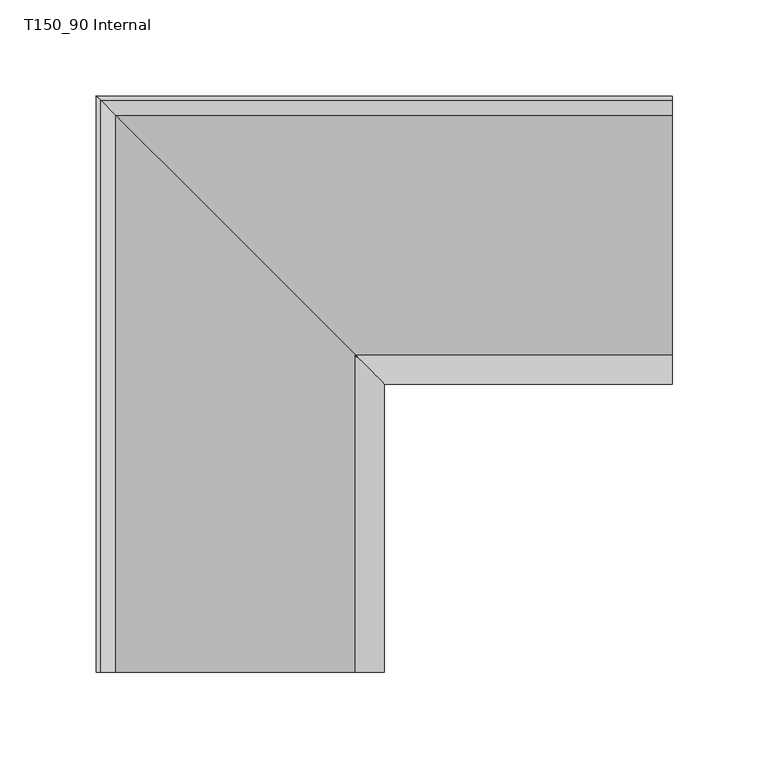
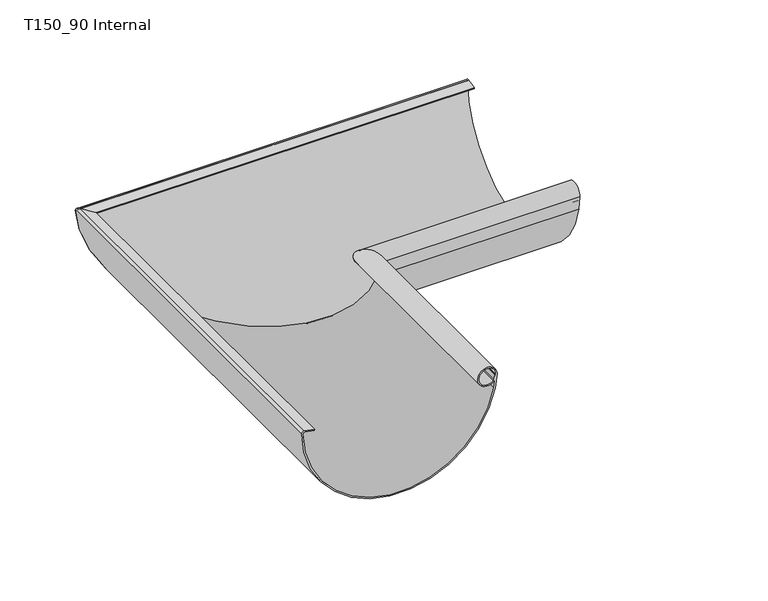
"""IFC4 building model written with IfcOpenShell, lengths in millimetres: proxy geometry, GROVIK_Gutter_Corner : T150_90 Internal."""

from ifc_helpers import new_model, si_unit, frame, origin, place, context, project, spatial, polyline, circle_curve, ellipse_curve, source, transform, mapped, element, save
from ifc_brep_helpers import plane_surface, cylinder_surface, revolved_surface, advanced_brep


def t150_90_internal_05e828aa(model_context):
    return source(origin(), model_context, "Body", "AdvancedBrep", [
        advanced_brep(
        [(2.2000746, -300.0, -0.0242687), (0.0, -300.0, -1.8), (148.4372161, -300.0, -16.2320172), (150.0, -300.0, -5.2006666), (147.5920528, -300.0, -10.6080252), (148.3363785, -300.0, -9.0063664), (148.8875189, -300.0, -5.5500325), (148.0, -300.0, -5.4006666), (147.4343725, -300.0, -8.9478528), (146.9551017, -300.0, -9.9710741), (149.0946963, -300.0, -5.3813466), (147.4579744, -300.0, -16.0293209), (1.003133, -300.0, -2.054027), (2.2975071, -300.0, -0.9559749), (9.7857475, -300.0, -2.295228), (9.9441961, -300.0, -1.4092855), (9.9441961, -9.7441961, -1.4092855), (2.2000746, -2.0000746, -0.0242687), (9.7857475, -9.5857475, -2.295228), (2.2975071, -2.0975071, -0.9559749), (1.0039531, -0.8039531, -2.0540157), (147.4579744, -147.2579744, -16.0293209), (149.0946963, -148.8946963, -5.3813466), (146.9551017, -146.7551017, -9.9710741), (147.4343725, -147.2343725, -8.9478528), (148.0, -147.8, -5.4006666), (148.8875189, -148.6875189, -5.5500325), (148.3363785, -148.1363785, -9.0063664), (147.5920528, -147.3920528, -10.6080252), (150.0, -149.8, -5.2006666), (148.4372161, -148.2372161, -16.2320172), (0.0, 0.2, -1.8)],
        [
            (0, 1, circle_curve(frame((1.8973666, -300.0, -1.9), z_axis=(0.0, -1.0, 0.0), x_axis=(1.0, 0.0, 0.0)), 1.9)),
            (1, 2, circle_curve(frame((74.995059, -300.0, -1.03), z_axis=(0.0, -1.0, 0.0), x_axis=(-1.0, 0.0, 0.0)), 74.9990118)),
            (2, 3),
            (3, 4, circle_curve(frame((142.5, -300.0, -5.1006666), z_axis=(0.0, -1.0, 0.0), x_axis=(1.0, 0.0, 0.0)), 7.5006666)),
            (4, 5, circle_curve(frame((145.1464101, -300.0, -8.4977001), z_axis=(0.0, -1.0, 0.0), x_axis=(1.0, 0.0, 0.0)), 3.2302694)),
            (5, 6),
            (6, 7),
            (7, 8),
            (8, 9, circle_curve(frame((145.4150076, -300.0, -8.6258487), z_axis=(0.0, 1.0, 0.0), x_axis=(1.0, 0.0, 0.0)), 2.0448768)),
            (9, 10, circle_curve(frame((142.5, -300.0, -5.1006666), z_axis=(0.0, 1.0, 0.0), x_axis=(1.0, 0.0, 0.0)), 6.6006666)),
            (10, 11),
            (11, 12, circle_curve(frame((74.995059, -300.0, -1.03), z_axis=(0.0, 1.0, 0.0), x_axis=(-1.0, 0.0, 0.0)), 73.9990118)),
            (12, 13, circle_curve(frame((2.1038477, -300.0, -2.0387934), z_axis=(0.0, 1.0, 0.0), x_axis=(1.0, 0.0, 0.0)), 1.1)),
            (13, 14),
            (14, 15),
            (15, 0),
            (15, 16),
            (16, 17),
            (17, 0),
            (14, 18),
            (18, 16),
            (13, 19),
            (19, 18),
            (12, 20),
            (20, 19, ellipse_curve(frame((2.1038477, -1.9038477, -2.0387934), z_axis=(0.7071067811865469, 0.7071067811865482, 0.0), x_axis=(-0.7071067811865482, 0.7071067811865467, 0.0)), 1.5556349, 1.1)),
            (11, 21),
            (21, 20, ellipse_curve(frame((74.995059, -74.795059, -1.03), z_axis=(0.7071067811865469, 0.7071067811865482, 0.0), x_axis=(-0.7071067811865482, 0.7071067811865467, 0.0)), 104.6504061, 73.9990118)),
            (10, 22),
            (22, 21),
            (9, 23),
            (23, 22, ellipse_curve(frame((142.5, -142.3, -5.1006666), z_axis=(0.7071067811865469, 0.7071067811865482, 0.0), x_axis=(-0.7071067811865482, 0.7071067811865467, 0.0)), 9.3347523, 6.6006666)),
            (8, 24),
            (24, 23, ellipse_curve(frame((145.4150076, -145.2150076, -8.6258487), z_axis=(0.7071067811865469, 0.7071067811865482, 0.0), x_axis=(-0.7071067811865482, 0.7071067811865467, 0.0)), 2.8918925, 2.0448768)),
            (7, 25),
            (25, 24),
            (6, 26),
            (26, 25),
            (5, 27),
            (27, 26),
            (4, 28),
            (28, 27, ellipse_curve(frame((145.1464101, -144.9464101, -8.4977001), z_axis=(-0.7071067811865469, -0.7071067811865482, 0.0), x_axis=(0.7071067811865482, -0.7071067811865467, 0.0)), 4.5682907, 3.2302694)),
            (3, 29),
            (29, 28, ellipse_curve(frame((142.5, -142.3, -5.1006666), z_axis=(-0.7071067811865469, -0.7071067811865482, 0.0), x_axis=(0.7071067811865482, -0.7071067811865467, 0.0)), 10.6075445, 7.5006666)),
            (2, 30),
            (30, 29),
            (1, 31),
            (31, 30, ellipse_curve(frame((74.995059, -74.795059, -1.03), z_axis=(-0.7071067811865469, -0.7071067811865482, 0.0), x_axis=(0.7071067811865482, -0.7071067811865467, 0.0)), 106.0646196, 74.9990118)),
            (17, 31, ellipse_curve(frame((1.8973666, -1.6973666, -1.9), z_axis=(-0.7071067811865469, -0.7071067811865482, 0.0), x_axis=(0.7071067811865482, -0.7071067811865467, 0.0)), 2.6870058, 1.9)),
        ],
        [
            plane_surface(frame((0.0, -300.0, 0.0), z_axis=(0.0, -1.0, 0.0), x_axis=(0.0, 0.0, 1.0))),
            plane_surface(frame((2.2000746, -300.0, -0.0242687), z_axis=(0.17605399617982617, 0.0, 0.9843805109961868), x_axis=(0.0, 1.0, 0.0))),
            plane_surface(frame((9.9441961, -300.0, -1.4092855), z_axis=(0.9843805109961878, 0.0, -0.1760539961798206), x_axis=(0.0, 1.0, 0.0))),
            plane_surface(frame((9.7857475, -300.0, -2.295228), z_axis=(-0.17605399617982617, 0.0, -0.9843805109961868), x_axis=(0.0, 1.0, 0.0))),
            revolved_surface(polyline([(3.2038477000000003, -0.8038477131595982, -2.0387934), (3.2038477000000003, -300.0, -2.0387934)]), (2.1038477, -300.0, -2.0387934), (0.0, 1.0, 0.0)),
            revolved_surface(polyline([(0.9960471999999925, -0.7960471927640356, -1.03), (0.9960471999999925, -300.0, -1.03)]), (74.995059, -300.0, -1.03), (0.0, 1.0, 0.0)),
            plane_surface(frame((147.4579744, -300.0, -16.0293209), z_axis=(-0.9883916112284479, 0.0, 0.15192768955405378), x_axis=(0.0, 1.0, 0.0))),
            revolved_surface(polyline([(149.1006666, -135.6993333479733, -5.1006666), (149.1006666, -300.0, -5.1006666)]), (142.5, -300.0, -5.1006666), (0.0, 1.0, 0.0)),
            revolved_surface(polyline([(147.4598844, -143.1701308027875, -8.6258487), (147.4598844, -300.0, -8.6258487)]), (145.4150076, -300.0, -8.6258487), (0.0, 1.0, 0.0)),
            plane_surface(frame((147.4343725, -300.0, -8.9478528), z_axis=(-0.9875239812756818, 0.0, 0.1574686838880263), x_axis=(0.0, 1.0, 0.0))),
            plane_surface(frame((148.0, -300.0, -5.4006666), z_axis=(0.1659620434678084, 0.0, 0.9861321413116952), x_axis=(0.0, 1.0, 0.0))),
            plane_surface(frame((148.8875189, -300.0, -5.5500325), z_axis=(0.9875239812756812, 0.0, -0.15746868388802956), x_axis=(0.0, 1.0, 0.0))),
            cylinder_surface(frame((145.1464101, -300.0, -8.4977001), z_axis=(0.0, -1.0, 0.0), x_axis=(1.0, 0.0, 0.0)), 3.2302694),
            cylinder_surface(frame((142.5, -300.0, -5.1006666), z_axis=(0.0, -1.0, 0.0), x_axis=(1.0, 0.0, 0.0)), 7.5006666),
            plane_surface(frame((150.0, -300.0, -5.2006666), z_axis=(0.9901137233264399, 0.0, -0.14026694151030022), x_axis=(0.0, 1.0, 0.0))),
            cylinder_surface(frame((74.995059, -300.0, -1.03), z_axis=(0.0, -1.0, 0.0), x_axis=(-1.0, 0.0, 0.0)), 74.9990118),
            cylinder_surface(frame((1.8973666, -300.0, -1.9), z_axis=(0.0, -1.0, 0.0), x_axis=(1.0, 0.0, 0.0)), 1.9),
            plane_surface(frame((150.2, -150.0, 250.0), z_axis=(0.7071067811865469, 0.7071067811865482, 0.0), x_axis=(0.0, 0.0, -1.0))),
        ],
        [
            (0, [[1, 2, 3, 4, 5, 6, 7, 8, 9, 10, 11, 12, 13, 14, 15, 16]]),
            (1, [[17, 18, 19, -16]]),
            (2, [[20, 21, -17, -15]]),
            (3, [[22, 23, -20, -14]]),
            (4, [[24, 25, -22, -13]]),
            (5, [[26, 27, -24, -12]]),
            (6, [[28, 29, -26, -11]]),
            (7, [[30, 31, -28, -10]]),
            (8, [[32, 33, -30, -9]]),
            (9, [[34, 35, -32, -8]]),
            (10, [[36, 37, -34, -7]]),
            (11, [[38, 39, -36, -6]]),
            (12, [[40, 41, -38, -5]]),
            (13, [[42, 43, -40, -4]]),
            (14, [[44, 45, -42, -3]]),
            (15, [[46, 47, -44, -2]]),
            (16, [[-19, 48, -46, -1]]),
            (17, [[-21, -23, -25, -27, -29, -31, -33, -35, -37, -39, -41, -43, -45, -47, -48, -18]]),
        ],
    ),
        advanced_brep(
        [(300.0, -2.2000746, -0.0242687), (300.0, -9.9441961, -1.4092855), (300.0, -9.7857475, -2.295228), (300.0, -2.2975071, -0.9559749), (300.0, -1.0039531, -2.0540157), (300.0, -147.4579744, -16.0293209), (300.0, -149.0946963, -5.3813466), (300.0, -146.9551017, -9.9710741), (300.0, -147.4343725, -8.9478528), (300.0, -148.0, -5.4006666), (300.0, -148.8875189, -5.5500325), (300.0, -148.3363785, -9.0063664), (300.0, -147.5920528, -10.6080252), (300.0, -150.0, -5.2006666), (300.0, -148.4372161, -16.2320172), (300.0, 0.0, -1.8), (2.0000746, -2.2000746, -0.0242687), (9.7441961, -9.9441961, -1.4092855), (9.5857475, -9.7857475, -2.295228), (2.0975071, -2.2975071, -0.9559749), (0.8039531, -1.0039531, -2.0540157), (147.2579744, -147.4579744, -16.0293209), (148.8946963, -149.0946963, -5.3813466), (146.7551017, -146.9551017, -9.9710741), (147.2343725, -147.4343725, -8.9478528), (147.8, -148.0, -5.4006666), (148.6875189, -148.8875189, -5.5500325), (148.1363785, -148.3363785, -9.0063664), (147.3920528, -147.5920528, -10.6080252), (149.8, -150.0, -5.2006666), (148.2372161, -148.4372161, -16.2320172), (-0.2, 0.0, -1.8)],
        [
            (0, 1),
            (1, 2),
            (2, 3),
            (3, 4, circle_curve(frame((300.0, -2.1038477, -2.0387934), z_axis=(-1.0, 0.0, 0.0), x_axis=(0.0, -1.0, 0.0)), 1.1)),
            (4, 5, circle_curve(frame((300.0, -74.995059, -1.03), z_axis=(-1.0, 0.0, 0.0), x_axis=(0.0, 1.0, 0.0)), 73.9990118)),
            (5, 6),
            (6, 7, circle_curve(frame((300.0, -142.5, -5.1006666), z_axis=(-1.0, 0.0, 0.0), x_axis=(0.0, -1.0, 0.0)), 6.6006666)),
            (7, 8, circle_curve(frame((300.0, -145.4150076, -8.6258487), z_axis=(-1.0, 0.0, 0.0), x_axis=(0.0, -1.0, 0.0)), 2.0448768)),
            (8, 9),
            (9, 10),
            (10, 11),
            (11, 12, circle_curve(frame((300.0, -145.1464101, -8.4977001), z_axis=(1.0, 0.0, 0.0), x_axis=(0.0, -1.0, 0.0)), 3.2302694)),
            (12, 13, circle_curve(frame((300.0, -142.5, -5.1006666), z_axis=(1.0, 0.0, 0.0), x_axis=(0.0, -1.0, 0.0)), 7.5006666)),
            (13, 14),
            (14, 15, circle_curve(frame((300.0, -74.995059, -1.03), z_axis=(1.0, 0.0, 0.0), x_axis=(0.0, 1.0, 0.0)), 74.9990118)),
            (15, 0, circle_curve(frame((300.0, -1.8973666, -1.9), z_axis=(1.0, 0.0, 0.0), x_axis=(0.0, -1.0, 0.0)), 1.9)),
            (0, 16),
            (16, 17),
            (17, 1),
            (17, 18),
            (18, 2),
            (18, 19),
            (19, 3),
            (19, 20, ellipse_curve(frame((1.9038477, -2.1038477, -2.0387934), z_axis=(-0.7071067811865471, -0.707106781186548, 0.0), x_axis=(-0.7071067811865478, 0.7071067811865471, 0.0)), 1.5556349, 1.1)),
            (20, 4),
            (20, 21, ellipse_curve(frame((74.795059, -74.995059, -1.03), z_axis=(-0.7071067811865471, -0.707106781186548, 0.0), x_axis=(-0.7071067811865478, 0.7071067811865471, 0.0)), 104.6504061, 73.9990118)),
            (21, 5),
            (21, 22),
            (22, 6),
            (22, 23, ellipse_curve(frame((142.3, -142.5, -5.1006666), z_axis=(-0.7071067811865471, -0.707106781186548, 0.0), x_axis=(-0.7071067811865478, 0.7071067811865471, 0.0)), 9.3347523, 6.6006666)),
            (23, 7),
            (23, 24, ellipse_curve(frame((145.2150076, -145.4150076, -8.6258487), z_axis=(-0.7071067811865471, -0.707106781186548, 0.0), x_axis=(-0.7071067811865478, 0.7071067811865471, 0.0)), 2.8918925, 2.0448768)),
            (24, 8),
            (24, 25),
            (25, 9),
            (25, 26),
            (26, 10),
            (26, 27),
            (27, 11),
            (27, 28, ellipse_curve(frame((144.9464101, -145.1464101, -8.4977001), z_axis=(0.7071067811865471, 0.707106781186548, 0.0), x_axis=(0.7071067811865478, -0.7071067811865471, 0.0)), 4.5682907, 3.2302694)),
            (28, 12),
            (28, 29, ellipse_curve(frame((142.3, -142.5, -5.1006666), z_axis=(0.7071067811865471, 0.707106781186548, 0.0), x_axis=(0.7071067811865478, -0.7071067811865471, 0.0)), 10.6075445, 7.5006666)),
            (29, 13),
            (29, 30),
            (30, 14),
            (30, 31, ellipse_curve(frame((74.795059, -74.995059, -1.03), z_axis=(0.7071067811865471, 0.707106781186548, 0.0), x_axis=(0.7071067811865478, -0.7071067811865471, 0.0)), 106.0646196, 74.9990118)),
            (31, 15),
            (31, 16, ellipse_curve(frame((1.6973666, -1.8973666, -1.9), z_axis=(0.7071067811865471, 0.707106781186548, 0.0), x_axis=(0.7071067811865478, -0.7071067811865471, 0.0)), 2.6870058, 1.9)),
        ],
        [
            plane_surface(frame((300.0, 0.0, 0.0), z_axis=(1.0, 0.0, 0.0), x_axis=(0.0, 0.0, 1.0))),
            plane_surface(frame((300.0, -2.2000746, -0.0242687), z_axis=(0.0, -0.17605399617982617, 0.9843805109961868), x_axis=(-1.0, 0.0, 0.0))),
            plane_surface(frame((300.0, -9.9441961, -1.4092855), z_axis=(0.0, -0.9843805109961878, -0.1760539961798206), x_axis=(-1.0, 0.0, 0.0))),
            plane_surface(frame((300.0, -9.7857475, -2.295228), z_axis=(0.0, 0.17605399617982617, -0.9843805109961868), x_axis=(-1.0, 0.0, 0.0))),
            revolved_surface(polyline([(0.8038477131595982, -3.2038477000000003, -2.0387934), (300.0, -3.2038477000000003, -2.0387934)]), (300.0, -2.1038477, -2.0387934), (-1.0, 0.0, 0.0)),
            revolved_surface(polyline([(0.7960471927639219, -0.9960471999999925, -1.03), (300.0, -0.9960471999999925, -1.03)]), (300.0, -74.995059, -1.03), (-1.0, 0.0, 0.0)),
            plane_surface(frame((300.0, -147.4579744, -16.0293209), z_axis=(0.0, 0.9883916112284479, 0.15192768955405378), x_axis=(-1.0, 0.0, 0.0))),
            revolved_surface(polyline([(135.6993333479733, -149.1006666, -5.1006666), (300.0, -149.1006666, -5.1006666)]), (300.0, -142.5, -5.1006666), (-1.0, 0.0, 0.0)),
            revolved_surface(polyline([(143.1701308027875, -147.4598844, -8.6258487), (300.0, -147.4598844, -8.6258487)]), (300.0, -145.4150076, -8.6258487), (-1.0, 0.0, 0.0)),
            plane_surface(frame((300.0, -147.4343725, -8.9478528), z_axis=(0.0, 0.9875239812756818, 0.1574686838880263), x_axis=(-1.0, 0.0, 0.0))),
            plane_surface(frame((300.0, -148.0, -5.4006666), z_axis=(0.0, -0.1659620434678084, 0.9861321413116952), x_axis=(-1.0, 0.0, 0.0))),
            plane_surface(frame((300.0, -148.8875189, -5.5500325), z_axis=(0.0, -0.9875239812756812, -0.15746868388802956), x_axis=(-1.0, 0.0, 0.0))),
            cylinder_surface(frame((300.0, -145.1464101, -8.4977001), z_axis=(1.0, 0.0, 0.0), x_axis=(0.0, -1.0, 0.0)), 3.2302694),
            cylinder_surface(frame((300.0, -142.5, -5.1006666), z_axis=(1.0, 0.0, 0.0), x_axis=(0.0, -1.0, 0.0)), 7.5006666),
            plane_surface(frame((300.0, -150.0, -5.2006666), z_axis=(0.0, -0.9901137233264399, -0.14026694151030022), x_axis=(-1.0, 0.0, 0.0))),
            cylinder_surface(frame((300.0, -74.995059, -1.03), z_axis=(1.0, 0.0, 0.0), x_axis=(0.0, 1.0, 0.0)), 74.9990118),
            cylinder_surface(frame((300.0, -1.8973666, -1.9), z_axis=(1.0, 0.0, 0.0), x_axis=(0.0, -1.0, 0.0)), 1.9),
            plane_surface(frame((150.0, -150.2, 250.0), z_axis=(-0.7071067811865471, -0.707106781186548, 0.0), x_axis=(0.0, 0.0, -1.0))),
        ],
        [
            (0, [[1, 2, 3, 4, 5, 6, 7, 8, 9, 10, 11, 12, 13, 14, 15, 16]]),
            (1, [[-1, 17, 18, 19]]),
            (2, [[-2, -19, 20, 21]]),
            (3, [[-3, -21, 22, 23]]),
            (4, [[-4, -23, 24, 25]]),
            (5, [[-5, -25, 26, 27]]),
            (6, [[-6, -27, 28, 29]]),
            (7, [[-7, -29, 30, 31]]),
            (8, [[-8, -31, 32, 33]]),
            (9, [[-9, -33, 34, 35]]),
            (10, [[-10, -35, 36, 37]]),
            (11, [[-11, -37, 38, 39]]),
            (12, [[-12, -39, 40, 41]]),
            (13, [[-13, -41, 42, 43]]),
            (14, [[-14, -43, 44, 45]]),
            (15, [[-15, -45, 46, 47]]),
            (16, [[-16, -47, 48, -17]]),
            (17, [[-18, -48, -46, -44, -42, -40, -38, -36, -34, -32, -30, -28, -26, -24, -22, -20]]),
        ],
    ),
    ])


if __name__ == "__main__":
    model = new_model("IFC4")
    model_context = context("Model", 3, world=origin())
    ifc_project = project(units=[si_unit("LENGTHUNIT", "METRE", prefix="MILLI")], contexts=[model_context])
    site = spatial("IfcSite", under=ifc_project)
    building = spatial("IfcBuilding", under=site)
    placement = place(None, origin())
    t150_90_internal_shape = t150_90_internal_05e828aa(model_context)
    element("IfcBuildingElementProxy", 1, Name="GROVIK_Gutter_Corner : T150_90 Internal", ObjectType="GROVIK_Gutter_Corner : T150_90 Internal", at=placement, inside=building, context=model_context, shape_type="MappedRepresentation", body=[
        mapped(t150_90_internal_shape, transform((0.0, 0.0, 0.0), x_axis=(1.0, 0.0, 0.0), y_axis=(0.0, 1.0, 0.0), z_axis=(0.0, 0.0, 1.0))),
    ])
    save(model, "model.ifc")
